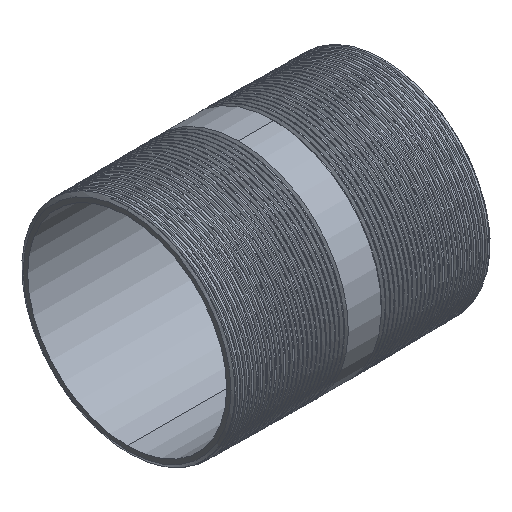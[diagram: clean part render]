
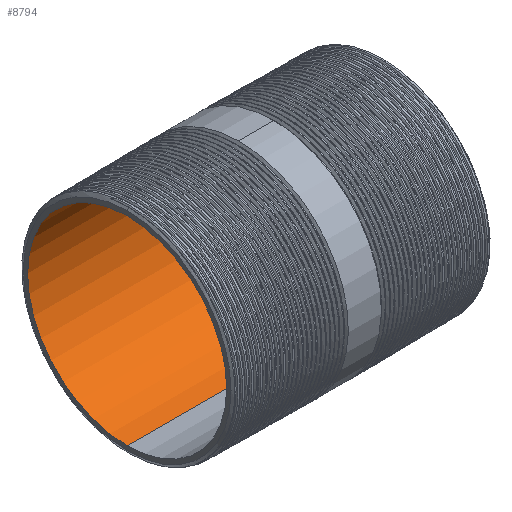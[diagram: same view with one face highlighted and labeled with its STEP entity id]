
A CAD part, isometric view. The second image highlights one B-rep face of the part: STEP entity #8794.
In plain terms, the highlighted cylindrical face has radius 15.424 mm (diameter 30.847 mm), a partial arc.
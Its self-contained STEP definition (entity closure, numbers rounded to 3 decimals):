
#250 = LINE ( 'NONE', #4306, #6813 ) ;
#1006 = CARTESIAN_POINT ( 'NONE',  ( 20., 0., -15.424 ) ) ;
#1505 = FACE_OUTER_BOUND ( 'NONE', #3462, .T. ) ;
#1675 = DIRECTION ( 'NONE',  ( 0., 0., 1. ) ) ;
#1820 = EDGE_CURVE ( 'NONE', #16160, #12703, #3390, .T. ) ;
#2120 = CARTESIAN_POINT ( 'NONE',  ( -20., 0., -15.424 ) ) ;
#2856 = AXIS2_PLACEMENT_3D ( 'NONE', #11700, #3225, #15669 ) ;
#3225 = DIRECTION ( 'NONE',  ( -1., 0., 0. ) ) ;
#3226 = EDGE_CURVE ( 'NONE', #5085, #4420, #12607, .T. ) ;
#3390 = CIRCLE ( 'NONE', #12026, 15.424 ) ;
#3462 = EDGE_LOOP ( 'NONE', ( #4072, #9462, #5875, #4193 ) ) ;
#3866 = DIRECTION ( 'NONE',  ( 0., 0., 1. ) ) ;
#4072 = ORIENTED_EDGE ( 'NONE', *, *, #7333, .F. ) ;
#4193 = ORIENTED_EDGE ( 'NONE', *, *, #3226, .T. ) ;
#4306 = CARTESIAN_POINT ( 'NONE',  ( -149.494, 0., -15.424 ) ) ;
#4420 = VERTEX_POINT ( 'NONE', #2120 ) ;
#4736 = CARTESIAN_POINT ( 'NONE',  ( 20., 0., 15.424 ) ) ;
#5085 = VERTEX_POINT ( 'NONE', #13569 ) ;
#5875 = ORIENTED_EDGE ( 'NONE', *, *, #17113, .T. ) ;
#6813 = VECTOR ( 'NONE', #13944, 1000. ) ;
#7333 = EDGE_CURVE ( 'NONE', #12703, #4420, #250, .T. ) ;
#8139 = CARTESIAN_POINT ( 'NONE',  ( -149.494, 0., 15.424 ) ) ;
#8543 = CARTESIAN_POINT ( 'NONE',  ( -149.494, 0., 0. ) ) ;
#8720 = DIRECTION ( 'NONE',  ( -1., 0., 0. ) ) ;
#8794 = ADVANCED_FACE ( 'NONE', ( #1505 ), #11152, .F. ) ;
#9462 = ORIENTED_EDGE ( 'NONE', *, *, #1820, .F. ) ;
#11152 = CYLINDRICAL_SURFACE ( 'NONE', #15230, 15.424 ) ;
#11700 = CARTESIAN_POINT ( 'NONE',  ( -20., 0., 0. ) ) ;
#12026 = AXIS2_PLACEMENT_3D ( 'NONE', #12505, #17662, #3866 ) ;
#12505 = CARTESIAN_POINT ( 'NONE',  ( 20., 0., 0. ) ) ;
#12607 = CIRCLE ( 'NONE', #2856, 15.424 ) ;
#12703 = VERTEX_POINT ( 'NONE', #1006 ) ;
#13569 = CARTESIAN_POINT ( 'NONE',  ( -20., 0., 15.424 ) ) ;
#13944 = DIRECTION ( 'NONE',  ( -1., 0., 0. ) ) ;
#14050 = VECTOR ( 'NONE', #14979, 1000. ) ;
#14979 = DIRECTION ( 'NONE',  ( -1., 0., 0. ) ) ;
#15230 = AXIS2_PLACEMENT_3D ( 'NONE', #8543, #8720, #1675 ) ;
#15669 = DIRECTION ( 'NONE',  ( 0., 0., 1. ) ) ;
#16064 = LINE ( 'NONE', #8139, #14050 ) ;
#16160 = VERTEX_POINT ( 'NONE', #4736 ) ;
#17113 = EDGE_CURVE ( 'NONE', #16160, #5085, #16064, .T. ) ;
#17662 = DIRECTION ( 'NONE',  ( -1., 0., 0. ) ) ;
